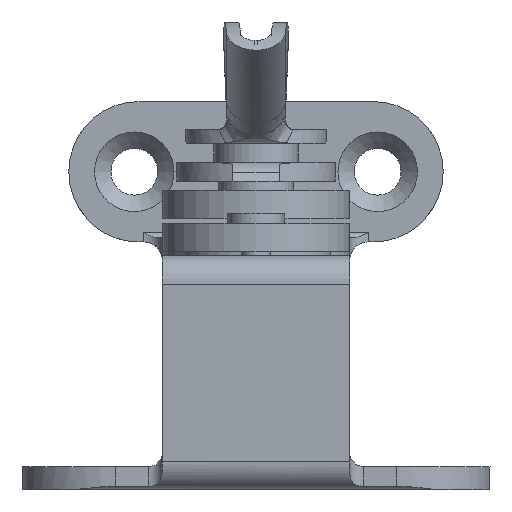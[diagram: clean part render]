
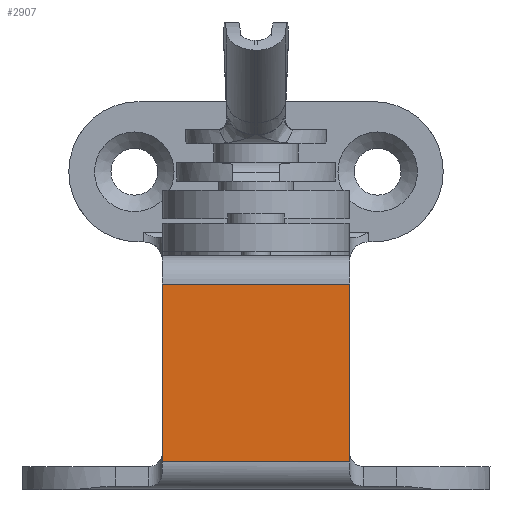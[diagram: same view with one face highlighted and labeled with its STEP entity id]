
A CAD part, left-side view. The second image highlights one B-rep face of the part: STEP entity #2907.
In plain terms, the highlighted planar face has unit normal (-1, 0, 0) as drawn and (0, 1, 0) by its records, which use the part's own axes.
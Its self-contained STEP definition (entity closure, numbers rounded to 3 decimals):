
#95=PLANE('',#3121);
#305=LINE('',#4130,#471);
#315=LINE('',#4182,#481);
#325=LINE('',#4223,#491);
#330=LINE('',#4234,#496);
#331=LINE('',#4236,#497);
#337=LINE('',#4273,#503);
#471=VECTOR('',#3391,1.);
#481=VECTOR('',#3413,1.);
#491=VECTOR('',#3447,20.);
#496=VECTOR('',#3458,18.);
#497=VECTOR('',#3461,20.);
#503=VECTOR('',#3485,18.);
#782=FACE_OUTER_BOUND('',#978,.T.);
#978=EDGE_LOOP('',(#2135,#2136,#2137,#2138,#2139,#2140));
#1312=VERTEX_POINT('',#4114);
#1315=VERTEX_POINT('',#4129);
#1326=VERTEX_POINT('',#4168);
#1327=VERTEX_POINT('',#4181);
#1335=VERTEX_POINT('',#4216);
#1338=VERTEX_POINT('',#4221);
#1608=EDGE_CURVE('',#1312,#1315,#305,.T.);
#1623=EDGE_CURVE('',#1327,#1326,#315,.T.);
#1640=EDGE_CURVE('',#1338,#1335,#325,.T.);
#1646=EDGE_CURVE('',#1335,#1312,#330,.T.);
#1647=EDGE_CURVE('',#1315,#1326,#331,.T.);
#1659=EDGE_CURVE('',#1338,#1327,#337,.T.);
#2135=ORIENTED_EDGE('',*,*,#1640,.F.);
#2136=ORIENTED_EDGE('',*,*,#1659,.T.);
#2137=ORIENTED_EDGE('',*,*,#1623,.T.);
#2138=ORIENTED_EDGE('',*,*,#1647,.F.);
#2139=ORIENTED_EDGE('',*,*,#1608,.F.);
#2140=ORIENTED_EDGE('',*,*,#1646,.F.);
#2907=ADVANCED_FACE('',(#782),#95,.T.);
#3121=AXIS2_PLACEMENT_3D('',#4274,#3486,#3487);
#3391=DIRECTION('',(0.,0.,-1.));
#3413=DIRECTION('',(0.,0.,-1.));
#3447=DIRECTION('',(-1.,0.,0.));
#3458=DIRECTION('',(0.,0.,-1.));
#3461=DIRECTION('',(1.,0.,0.));
#3485=DIRECTION('',(0.,0.,-1.));
#3486=DIRECTION('center_axis',(0.,1.,0.));
#3487=DIRECTION('ref_axis',(1.,0.,0.));
#4114=CARTESIAN_POINT('',(-10.,11.5,4.));
#4129=CARTESIAN_POINT('',(-10.,11.5,3.));
#4130=CARTESIAN_POINT('',(-10.,11.5,25.));
#4168=CARTESIAN_POINT('',(10.,11.5,3.));
#4181=CARTESIAN_POINT('',(10.,11.5,4.));
#4182=CARTESIAN_POINT('',(10.,11.5,25.));
#4216=CARTESIAN_POINT('',(-10.,11.5,22.));
#4221=CARTESIAN_POINT('',(10.,11.5,22.));
#4223=CARTESIAN_POINT('',(-5.,11.5,22.));
#4234=CARTESIAN_POINT('',(-10.,11.5,25.));
#4236=CARTESIAN_POINT('',(-5.,11.5,3.));
#4273=CARTESIAN_POINT('',(10.,11.5,25.));
#4274=CARTESIAN_POINT('Origin',(-10.,11.5,25.));
